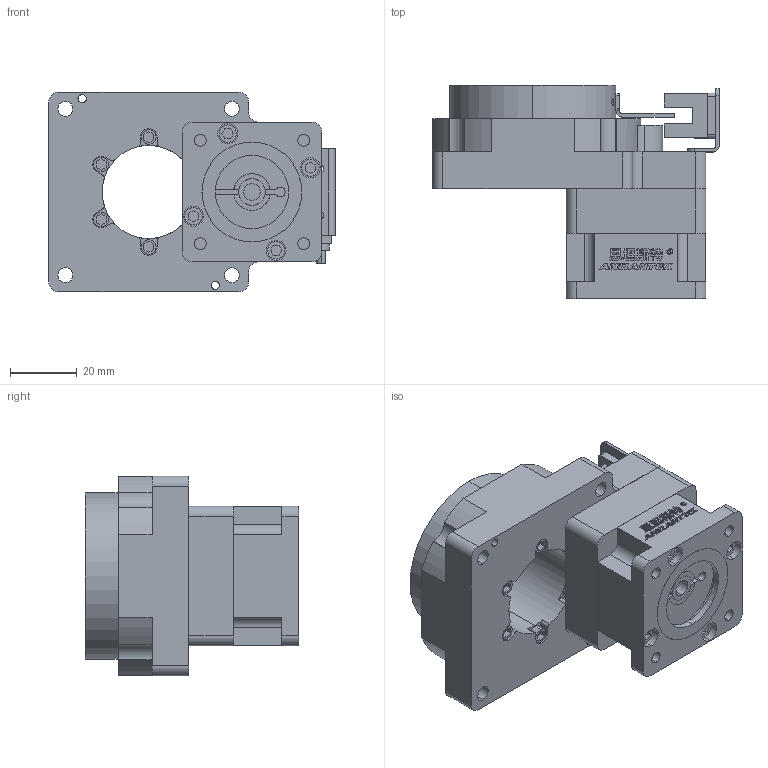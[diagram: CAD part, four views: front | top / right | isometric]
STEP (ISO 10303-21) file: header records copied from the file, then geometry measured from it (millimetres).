
FILE_DESCRIPTION(('Open CASCADE Model'),'2;1');
FILE_NAME('Open CASCADE Shape Model','2026-10-11T02:56:52',('Author'),( 'Open CASCADE'),'Open CASCADE STEP processor 7.8','Open CASCADE 7.8' ,'Unknown');
FILE_SCHEMA(('AUTOMOTIVE_DESIGN { 1 0 10303 214 1 1 1 1 }'));
Length unit declared in the file: millimetre
Products named in the file (3): NT60-10(配42步进 输入5-30 22-5 4-3.5-31-31); NT60-10(配42步进 输入5-30 22-5 4-3.5-31-31)-01; NT60-10(配42步进 输入5-30 22-5 4-3.5-31-31)-02
Assembly tree (2 placements, depth 2):
  NT60-10(配42步进 输入5-30 22-5 4-3.5-31-31)
    NT60-10(配42步进 输入5-30 22-5 4-3.5-31-31)-01
    NT60-10(配42步进 输入5-30 22-5 4-3.5-31-31)-02
Bounding box: 86 x 64 x 60 mm (x, y, z)
Volume: 128323.6 mm3; surface area: 42594.2 mm2
Topology: 8 solids, 14 shells, 1126 faces, 3058 edges, 2012 vertices
Faces by surface type: plane 860, cylinder 234, cone 32
Entity records: 74915 total; most frequent: CARTESIAN_POINT 16087, DIRECTION 10307, LINE 6928, VECTOR 6928, ORIENTED_EDGE 6052, PCURVE 6052, DEFINITIONAL_REPRESENTATION 6052, EDGE_CURVE 3026
